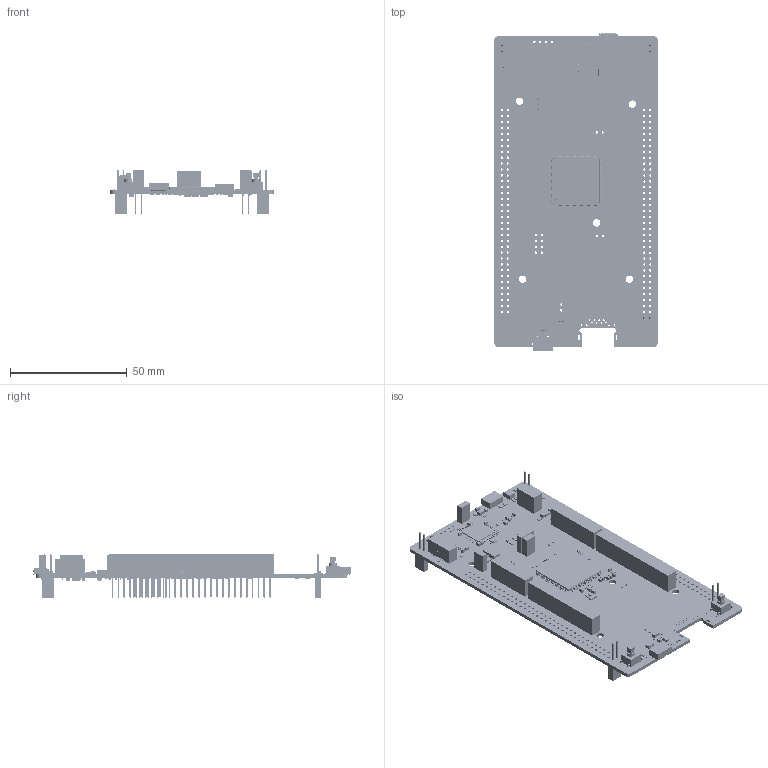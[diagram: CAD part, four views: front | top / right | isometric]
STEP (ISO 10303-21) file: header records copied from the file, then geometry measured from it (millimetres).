
FILE_DESCRIPTION(('Open CASCADE Model'),'2;1');
FILE_NAME('Open CASCADE Shape Model','2025-06-24T10:51:59',('Author'),( 'Open CASCADE'),'Open CASCADE STEP processor 7.5','Open CASCADE 7.5' ,'Unknown');
FILE_SCHEMA(('AUTOMOTIVE_DESIGN { 1 0 10303 214 1 1 1 1 }'));
Length unit declared in the file: millimetre
Products named in the file (447): PCB; Board; Open CASCADE STEP translator 7.5 1.1.1; R73; R0603; 7387922144; Extruded; R72; R27; 7387617616; R75; R74; R26; Q3; SOT23-3_TO-236AB; 6666687920; Q2; LD3; 7388215072; Cylinder; 7388214912; 7388214752; 7388214592; 7388214352; LD2; 7388213792; 7388213552; 7388213312; 7388213152; SB45; 7387619136; SB41; SB37; R0402; 6666688320; SB42; SB33; SB78; SB58; SB56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
Assembly tree (1087 placements, depth 4):
  PCB
    Board
      Open CASCADE STEP translator 7.5 1.1.1
    R73
      R0603
      7387922144
        Extruded
    R72
      R0603
      7387922144
        Extruded
    R27
      R0603
      7387617616
        Extruded
    R75
      R0603
      7387922144
        Extruded
    R74
      R0603
      7387922144
        Extruded
    R26
      R0603
      7387617616
        Extruded
    Q3
      SOT23-3_TO-236AB
      6666687920
        Extruded
    Q2
      SOT23-3_TO-236AB
      6666687920
        Extruded
    LD3
      7388215072
        Cylinder
      7388214912
        Extruded
      7388214752
        Extruded
      7388214592  x2
        Extruded
      7388214352  x2
        Extruded
    LD2
      7388213792  x2
        Extruded
      7388213552  x2
        Extruded
      7388213312
        Extruded
      7388213152
        Extruded
    SB45
      R0603
      7387619136
        Extruded
    SB41
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Bounding box: 70 x 135.8 x 18.57 mm (x, y, z)
Volume: 29024.2 mm3; surface area: 44356.4 mm2
Topology: 1084 solids, 1994 shells, 32917 faces, 80944 edges, 50505 vertices
Faces by surface type: plane 16613, cylinder 6997, bspline 6758, sphere 1906, revolution 360, torus 281, cone 2
Full cylindrical faces by diameter (mm): 0.2 x2, 0.3 x1, 0.4 x3, 0.5 x1, 0.7 x12, 0.9 x2, 0.97 x2, 1 x183, 1.1 x100, 1.19 x2, 1.5 x2, 3.2 x5, 3.4 x2
Entity records: 309058 total; most frequent: CARTESIAN_POINT 62047, DIRECTION 42919, ORIENTED_EDGE 42393, EDGE_CURVE 21878, LINE 18009, VECTOR 18009, VERTEX_POINT 14529, AXIS2_PLACEMENT_3D 12451
